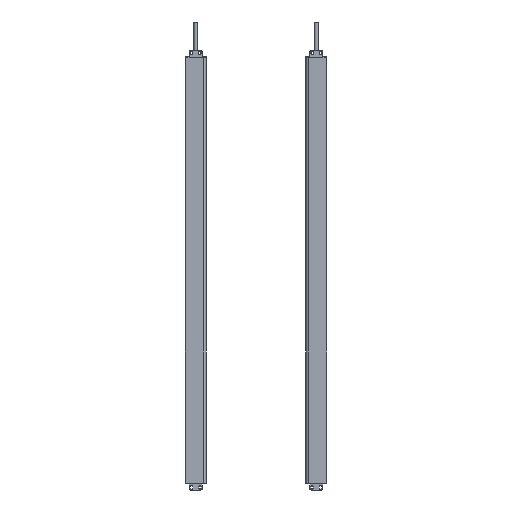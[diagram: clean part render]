
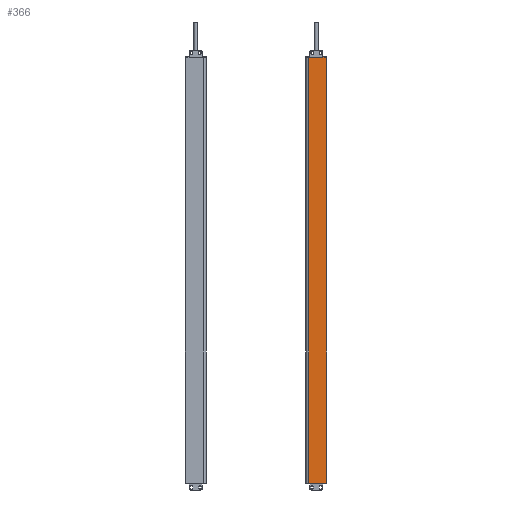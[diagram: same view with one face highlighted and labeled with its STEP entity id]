
A CAD part, front view. The second image highlights one B-rep face of the part: STEP entity #366.
In plain terms, the highlighted planar face has unit normal (0, -1, 0).
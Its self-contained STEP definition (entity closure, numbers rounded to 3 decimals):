
#123=PLANE('',#5869);
#366=ADVANCED_FACE('',(#797),#123,.T.);
#797=FACE_OUTER_BOUND('',#1073,.T.);
#1073=EDGE_LOOP('',(#1780,#1781,#1782,#1783));
#1780=ORIENTED_EDGE('',*,*,#3977,.T.);
#1781=ORIENTED_EDGE('',*,*,#3978,.F.);
#1782=ORIENTED_EDGE('',*,*,#3979,.F.);
#1783=ORIENTED_EDGE('',*,*,#3903,.T.);
#3351=VERTEX_POINT('',#8106);
#3352=VERTEX_POINT('',#8108);
#3421=VERTEX_POINT('',#8253);
#3422=VERTEX_POINT('',#8257);
#3903=EDGE_CURVE('',#3352,#3351,#4726,.T.);
#3977=EDGE_CURVE('',#3351,#3421,#4771,.T.);
#3978=EDGE_CURVE('',#3422,#3421,#4772,.T.);
#3979=EDGE_CURVE('',#3352,#3422,#4773,.T.);
#4726=LINE('',#8107,#5280);
#4771=LINE('',#8254,#5325);
#4772=LINE('',#8256,#5326);
#4773=LINE('',#8258,#5327);
#5280=VECTOR('',#6413,1.);
#5325=VECTOR('',#6522,1.);
#5326=VECTOR('',#6525,1.);
#5327=VECTOR('',#6526,1.);
#5869=AXIS2_PLACEMENT_3D('',#8259,#6527,#6528);
#6413=DIRECTION('',(1.,0.,0.));
#6522=DIRECTION('',(0.,0.,1.));
#6525=DIRECTION('',(1.,0.,0.));
#6526=DIRECTION('',(0.,0.,1.));
#6527=DIRECTION('',(0.,-1.,0.));
#6528=DIRECTION('',(-1.,0.,0.));
#8106=CARTESIAN_POINT('',(3.35,-1.3,-100.));
#8107=CARTESIAN_POINT('',(-21.15,-1.3,-100.));
#8108=CARTESIAN_POINT('',(-21.15,-1.3,-100.));
#8253=CARTESIAN_POINT('',(3.35,-1.3,502.));
#8254=CARTESIAN_POINT('',(3.35,-1.3,-100.));
#8256=CARTESIAN_POINT('',(-4122.897,-1.3,502.));
#8257=CARTESIAN_POINT('',(-21.15,-1.3,502.));
#8258=CARTESIAN_POINT('',(-21.15,-1.3,-100.));
#8259=CARTESIAN_POINT('',(-21.15,-1.3,-100.));
